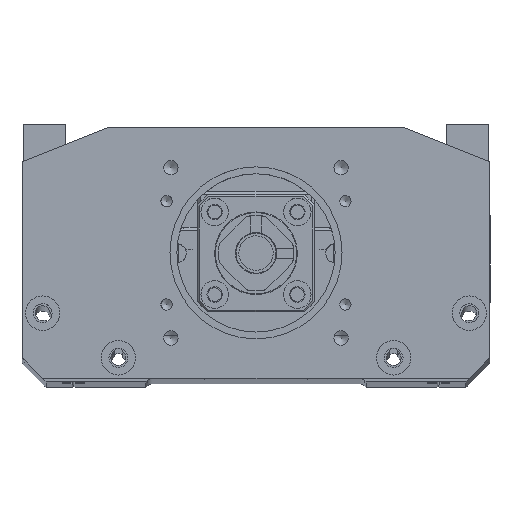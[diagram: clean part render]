
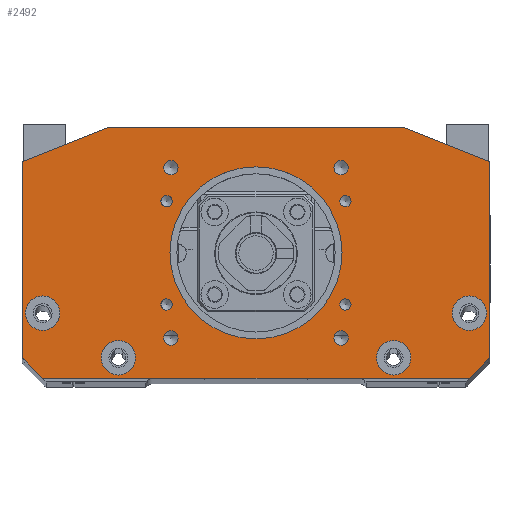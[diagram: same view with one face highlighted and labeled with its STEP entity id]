
A CAD part, top view. The second image highlights one B-rep face of the part: STEP entity #2492.
In plain terms, the highlighted planar face has unit normal (0, 0, 1).
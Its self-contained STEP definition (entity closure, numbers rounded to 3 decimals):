
#422=PLANE('',#15078);
#867=FACE_BOUND('',#4331,.T.);
#868=FACE_BOUND('',#4332,.T.);
#869=FACE_BOUND('',#4333,.T.);
#870=FACE_BOUND('',#4334,.T.);
#871=FACE_BOUND('',#4335,.T.);
#872=FACE_BOUND('',#4336,.T.);
#873=FACE_BOUND('',#4337,.T.);
#874=FACE_BOUND('',#4338,.T.);
#875=FACE_BOUND('',#4339,.T.);
#876=FACE_BOUND('',#4340,.T.);
#877=FACE_BOUND('',#4341,.T.);
#878=FACE_BOUND('',#4342,.T.);
#879=FACE_BOUND('',#4343,.T.);
#880=FACE_BOUND('',#4344,.T.);
#1786=CIRCLE('',#15065,1.65);
#1787=CIRCLE('',#15066,1.65);
#1788=CIRCLE('',#15067,1.65);
#1789=CIRCLE('',#15068,1.65);
#1790=CIRCLE('',#15069,2.1);
#1791=CIRCLE('',#15070,2.1);
#1792=CIRCLE('',#15071,2.1);
#1793=CIRCLE('',#15072,2.1);
#1794=CIRCLE('',#15073,25.);
#1795=CIRCLE('',#15074,5.);
#1796=CIRCLE('',#15075,5.);
#1797=CIRCLE('',#15076,5.);
#1798=CIRCLE('',#15077,5.);
#2492=ADVANCED_FACE('9',(#867,#868,#869,#870,#871,#872,#873,#874,#875,#876,
#877,#878,#879,#880),#422,.T.);
#4331=EDGE_LOOP('',(#7149));
#4332=EDGE_LOOP('',(#7150));
#4333=EDGE_LOOP('',(#7151));
#4334=EDGE_LOOP('',(#7152));
#4335=EDGE_LOOP('',(#7153));
#4336=EDGE_LOOP('',(#7154));
#4337=EDGE_LOOP('',(#7155));
#4338=EDGE_LOOP('',(#7156));
#4339=EDGE_LOOP('',(#7157));
#4340=EDGE_LOOP('',(#7158));
#4341=EDGE_LOOP('',(#7159));
#4342=EDGE_LOOP('',(#7160));
#4343=EDGE_LOOP('',(#7161));
#4344=EDGE_LOOP('',(#7162,#7163,#7164,#7165,#7166,#7167,#7168,#7169));
#7149=ORIENTED_EDGE('',*,*,#11610,.F.);
#7150=ORIENTED_EDGE('',*,*,#11611,.F.);
#7151=ORIENTED_EDGE('',*,*,#11612,.F.);
#7152=ORIENTED_EDGE('',*,*,#11613,.F.);
#7153=ORIENTED_EDGE('',*,*,#11614,.F.);
#7154=ORIENTED_EDGE('',*,*,#11615,.F.);
#7155=ORIENTED_EDGE('',*,*,#11616,.F.);
#7156=ORIENTED_EDGE('',*,*,#11617,.F.);
#7157=ORIENTED_EDGE('',*,*,#11618,.F.);
#7158=ORIENTED_EDGE('',*,*,#11619,.F.);
#7159=ORIENTED_EDGE('',*,*,#11620,.F.);
#7160=ORIENTED_EDGE('',*,*,#11621,.F.);
#7161=ORIENTED_EDGE('',*,*,#11622,.F.);
#7162=ORIENTED_EDGE('',*,*,#10744,.F.);
#7163=ORIENTED_EDGE('',*,*,#11580,.T.);
#7164=ORIENTED_EDGE('',*,*,#11623,.F.);
#7165=ORIENTED_EDGE('',*,*,#11583,.T.);
#7166=ORIENTED_EDGE('',*,*,#10639,.F.);
#7167=ORIENTED_EDGE('',*,*,#10691,.T.);
#7168=ORIENTED_EDGE('',*,*,#10706,.F.);
#7169=ORIENTED_EDGE('',*,*,#10720,.T.);
#9217=VERTEX_POINT('',#20809);
#9218=VERTEX_POINT('',#20811);
#9256=VERTEX_POINT('',#20909);
#9266=VERTEX_POINT('',#20937);
#9274=VERTEX_POINT('',#20962);
#9294=VERTEX_POINT('',#21008);
#9819=VERTEX_POINT('',#25273);
#9821=VERTEX_POINT('',#25279);
#9839=VERTEX_POINT('',#25336);
#9840=VERTEX_POINT('',#25338);
#9841=VERTEX_POINT('',#25340);
#9842=VERTEX_POINT('',#25342);
#9843=VERTEX_POINT('',#25344);
#9844=VERTEX_POINT('',#25346);
#9845=VERTEX_POINT('',#25348);
#9846=VERTEX_POINT('',#25350);
#9847=VERTEX_POINT('',#25352);
#9848=VERTEX_POINT('',#25354);
#9849=VERTEX_POINT('',#25356);
#9850=VERTEX_POINT('',#25358);
#9851=VERTEX_POINT('',#25360);
#10639=EDGE_CURVE('',#9217,#9218,#12381,.T.);
#10691=EDGE_CURVE('',#9217,#9256,#12423,.T.);
#10706=EDGE_CURVE('',#9266,#9256,#12436,.T.);
#10720=EDGE_CURVE('',#9266,#9274,#12448,.T.);
#10744=EDGE_CURVE('',#9294,#9274,#12470,.T.);
#11580=EDGE_CURVE('',#9294,#9819,#12890,.T.);
#11583=EDGE_CURVE('',#9821,#9218,#12893,.T.);
#11610=EDGE_CURVE('',#9839,#9839,#1786,.T.);
#11611=EDGE_CURVE('',#9840,#9840,#1787,.T.);
#11612=EDGE_CURVE('',#9841,#9841,#1788,.T.);
#11613=EDGE_CURVE('',#9842,#9842,#1789,.T.);
#11614=EDGE_CURVE('',#9843,#9843,#1790,.T.);
#11615=EDGE_CURVE('',#9844,#9844,#1791,.T.);
#11616=EDGE_CURVE('',#9845,#9845,#1792,.T.);
#11617=EDGE_CURVE('',#9846,#9846,#1793,.T.);
#11618=EDGE_CURVE('',#9847,#9847,#1794,.T.);
#11619=EDGE_CURVE('',#9848,#9848,#1795,.T.);
#11620=EDGE_CURVE('',#9849,#9849,#1796,.T.);
#11621=EDGE_CURVE('',#9850,#9850,#1797,.T.);
#11622=EDGE_CURVE('',#9851,#9851,#1798,.T.);
#11623=EDGE_CURVE('',#9821,#9819,#12907,.T.);
#12381=LINE('',#20810,#13360);
#12423=LINE('',#20910,#13402);
#12436=LINE('',#20938,#13415);
#12448=LINE('',#20963,#13427);
#12470=LINE('',#21009,#13449);
#12890=LINE('',#25272,#13869);
#12893=LINE('',#25278,#13872);
#12907=LINE('',#25361,#13886);
#13360=VECTOR('',#16218,1.);
#13402=VECTOR('',#16298,1.);
#13415=VECTOR('',#16321,1.);
#13427=VECTOR('',#16343,1.);
#13449=VECTOR('',#16373,1.);
#13869=VECTOR('',#18143,1.);
#13872=VECTOR('',#18148,1.);
#13886=VECTOR('',#18238,1.);
#15065=AXIS2_PLACEMENT_3D('',#25335,#18212,#18213);
#15066=AXIS2_PLACEMENT_3D('',#25337,#18214,#18215);
#15067=AXIS2_PLACEMENT_3D('',#25339,#18216,#18217);
#15068=AXIS2_PLACEMENT_3D('',#25341,#18218,#18219);
#15069=AXIS2_PLACEMENT_3D('',#25343,#18220,#18221);
#15070=AXIS2_PLACEMENT_3D('',#25345,#18222,#18223);
#15071=AXIS2_PLACEMENT_3D('',#25347,#18224,#18225);
#15072=AXIS2_PLACEMENT_3D('',#25349,#18226,#18227);
#15073=AXIS2_PLACEMENT_3D('',#25351,#18228,#18229);
#15074=AXIS2_PLACEMENT_3D('',#25353,#18230,#18231);
#15075=AXIS2_PLACEMENT_3D('',#25355,#18232,#18233);
#15076=AXIS2_PLACEMENT_3D('',#25357,#18234,#18235);
#15077=AXIS2_PLACEMENT_3D('',#25359,#18236,#18237);
#15078=AXIS2_PLACEMENT_3D('',#25362,#18239,#18240);
#16218=DIRECTION('',(0.,1.,0.));
#16298=DIRECTION('',(0.707,-0.707,0.));
#16321=DIRECTION('',(-1.,0.,0.));
#16343=DIRECTION('',(0.707,0.707,0.));
#16373=DIRECTION('',(0.,-1.,0.));
#18143=DIRECTION('',(-0.928,0.371,0.));
#18148=DIRECTION('',(-0.928,-0.371,0.));
#18212=DIRECTION('',(0.,0.,1.));
#18213=DIRECTION('',(1.,0.,0.));
#18214=DIRECTION('',(0.,0.,1.));
#18215=DIRECTION('',(1.,0.,0.));
#18216=DIRECTION('',(0.,0.,1.));
#18217=DIRECTION('',(1.,0.,0.));
#18218=DIRECTION('',(0.,0.,1.));
#18219=DIRECTION('',(1.,0.,0.));
#18220=DIRECTION('',(0.,0.,1.));
#18221=DIRECTION('',(1.,0.,0.));
#18222=DIRECTION('',(0.,0.,1.));
#18223=DIRECTION('',(1.,0.,0.));
#18224=DIRECTION('',(0.,0.,1.));
#18225=DIRECTION('',(1.,0.,0.));
#18226=DIRECTION('',(0.,0.,1.));
#18227=DIRECTION('',(1.,0.,0.));
#18228=DIRECTION('',(0.,0.,1.));
#18229=DIRECTION('',(1.,0.,0.));
#18230=DIRECTION('',(0.,0.,1.));
#18231=DIRECTION('',(1.,0.,0.));
#18232=DIRECTION('',(0.,0.,1.));
#18233=DIRECTION('',(1.,0.,0.));
#18234=DIRECTION('',(0.,0.,1.));
#18235=DIRECTION('',(1.,0.,0.));
#18236=DIRECTION('',(0.,0.,1.));
#18237=DIRECTION('',(1.,0.,0.));
#18238=DIRECTION('',(1.,0.,0.));
#18239=DIRECTION('',(0.,0.,1.));
#18240=DIRECTION('',(-1.,0.,0.));
#20809=CARTESIAN_POINT('',(-68.,6.,180.));
#20810=CARTESIAN_POINT('',(-68.,0.,180.));
#20811=CARTESIAN_POINT('',(-68.,63.,180.));
#20909=CARTESIAN_POINT('',(-62.,0.,180.));
#20910=CARTESIAN_POINT('',(-49.25,-12.75,180.));
#20937=CARTESIAN_POINT('',(62.,0.,180.));
#20938=CARTESIAN_POINT('',(68.,0.,180.));
#20962=CARTESIAN_POINT('',(68.,6.,180.));
#20963=CARTESIAN_POINT('',(49.25,-12.75,180.));
#21008=CARTESIAN_POINT('',(68.,63.,180.));
#21009=CARTESIAN_POINT('',(68.,0.,180.));
#25272=CARTESIAN_POINT('',(18.517,82.793,180.));
#25273=CARTESIAN_POINT('',(43.,73.,180.));
#25278=CARTESIAN_POINT('',(-18.517,82.793,180.));
#25279=CARTESIAN_POINT('',(-43.,73.,180.));
#25335=CARTESIAN_POINT('',(25.981,51.5,180.));
#25336=CARTESIAN_POINT('',(27.631,51.5,180.));
#25337=CARTESIAN_POINT('',(25.981,21.5,180.));
#25338=CARTESIAN_POINT('',(27.631,21.5,180.));
#25339=CARTESIAN_POINT('',(-25.981,21.5,180.));
#25340=CARTESIAN_POINT('',(-24.331,21.5,180.));
#25341=CARTESIAN_POINT('',(-25.981,51.5,180.));
#25342=CARTESIAN_POINT('',(-24.331,51.5,180.));
#25343=CARTESIAN_POINT('',(-24.749,61.249,180.));
#25344=CARTESIAN_POINT('',(-22.649,61.249,180.));
#25345=CARTESIAN_POINT('',(24.749,61.249,180.));
#25346=CARTESIAN_POINT('',(26.849,61.249,180.));
#25347=CARTESIAN_POINT('',(24.749,11.751,180.));
#25348=CARTESIAN_POINT('',(26.849,11.751,180.));
#25349=CARTESIAN_POINT('',(-24.749,11.751,180.));
#25350=CARTESIAN_POINT('',(-22.649,11.751,180.));
#25351=CARTESIAN_POINT('',(0.,36.5,180.));
#25352=CARTESIAN_POINT('',(25.,36.5,180.));
#25353=CARTESIAN_POINT('',(-62.,19.,180.));
#25354=CARTESIAN_POINT('',(-57.,19.,180.));
#25355=CARTESIAN_POINT('',(62.,19.,180.));
#25356=CARTESIAN_POINT('',(67.,19.,180.));
#25357=CARTESIAN_POINT('',(-40.,6.,180.));
#25358=CARTESIAN_POINT('',(-35.,6.,180.));
#25359=CARTESIAN_POINT('',(40.,6.,180.));
#25360=CARTESIAN_POINT('',(45.,6.,180.));
#25361=CARTESIAN_POINT('',(68.,73.,180.));
#25362=CARTESIAN_POINT('',(0.,36.5,180.));
